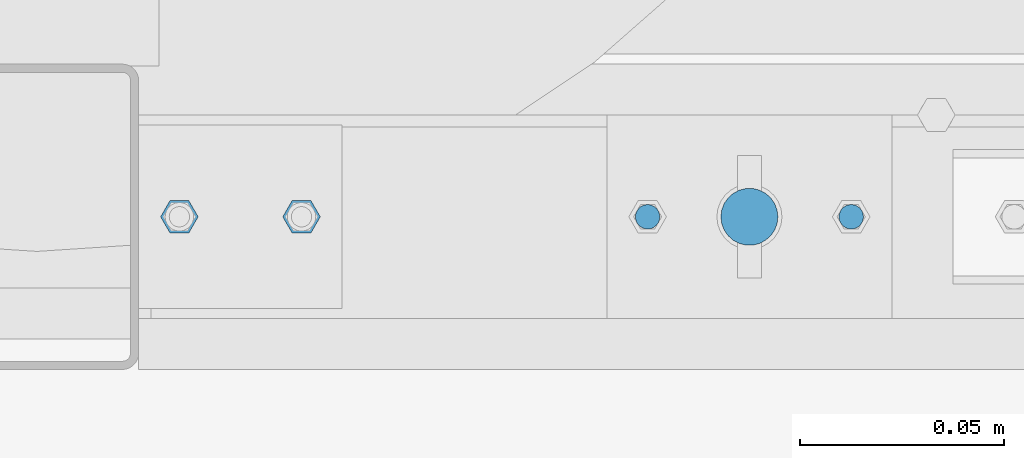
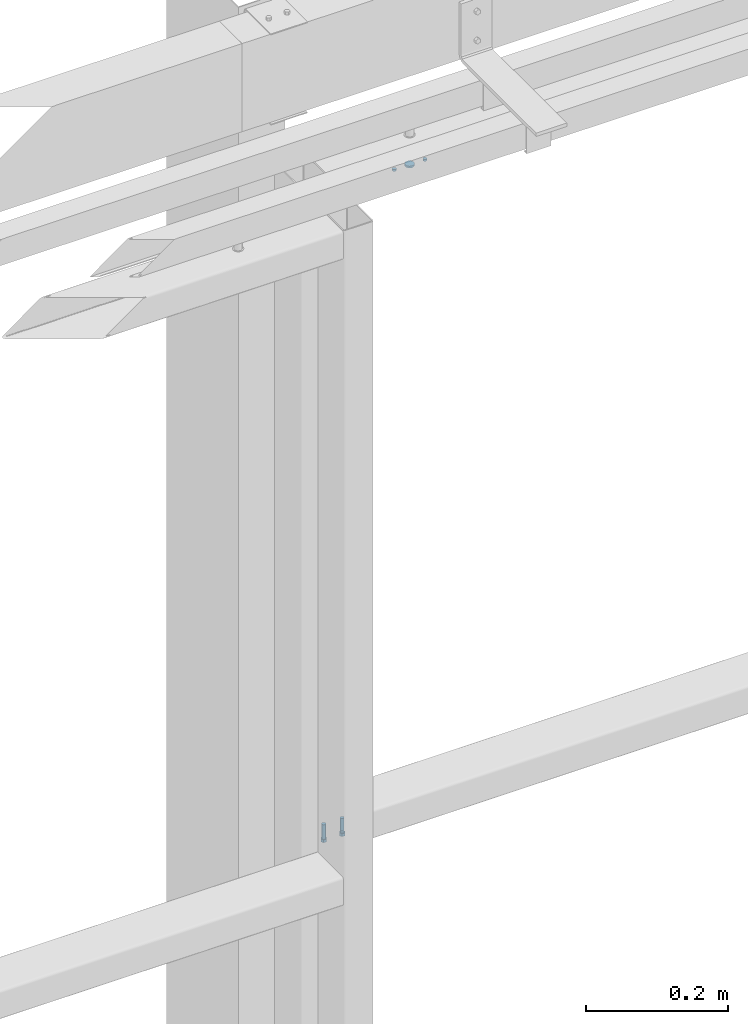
# One storey, part 51 of 91: 4 mechanical fasteners, 2 elements without a shape of their own.
"""IFC2X3 building model written with IfcOpenShell, lengths in millimetres."""

from ifc_helpers import new_model, si_unit, frame, origin_with_axes, origin_2d_with_axis, place, context, subcontext, project, spatial, polyline, circle, outline, extrude, source, transform, mapped, material, type_object, element, aggregate, save


model = new_model("IFC2X3")

# Units and contexts
model_context = context("Model", 3, precision=1e-05, world=origin_with_axes())
body_context = subcontext(model_context, "Body", "Model", "MODEL_VIEW")
ifc_project = project(units=[si_unit("LENGTHUNIT", "METRE", prefix="MILLI"), si_unit("AREAUNIT", "SQUARE_METRE"), si_unit("VOLUMEUNIT", "CUBIC_METRE"), si_unit("MASSUNIT", "GRAM", prefix="KILO"), si_unit("TIMEUNIT", "SECOND"), si_unit("PLANEANGLEUNIT", "RADIAN"), si_unit("SOLIDANGLEUNIT", "STERADIAN"), si_unit("THERMODYNAMICTEMPERATUREUNIT", "DEGREE_CELSIUS"), si_unit("LUMINOUSINTENSITYUNIT", "LUMEN")], contexts=[model_context])

# Site, building, storey
site_placement = place(None, origin_with_axes())
site = spatial("IfcSite", under=ifc_project, at=site_placement, Name="Undefined", CompositionType="ELEMENT")
building_placement = place(site_placement, origin_with_axes())
building = spatial("IfcBuilding", under=site, at=building_placement, Name="Undefined", CompositionType="ELEMENT")
storey_placement = place(building_placement, origin_with_axes())
storey = spatial("IfcBuildingStorey", under=building, at=storey_placement, Name="Undefined", CompositionType="ELEMENT", Elevation=0.0)

# Assembly, mechanical fasteners
assembly_1_placement = place(storey_placement, origin_with_axes())
assembly_1 = element("IfcElementAssembly", 1, at=assembly_1_placement, inside=storey, Name="ROD", AssemblyPlace="NOTDEFINED", PredefinedType="RIGID_FRAME")
ifc_material_1 = material(Name="8.8S")
discrete_accessory_type = type_object("IfcDiscreteAccessoryType", Name="Bolt assembly")
shared_shape_1 = source(origin_with_axes(), body_context, "Body", "SweptSolid", [
    extrude(circle(Radius=3.0, at=origin_2d_with_axis()), frame((0.0, -1.0, 0.0), z_axis=(0.0, 1.0, 0.0), x_axis=(1.0, 0.0, 0.0)), (0.0, 0.0, 1.0), 3.1),
])
mechanical_fastener_1_placement = place(assembly_1_placement, frame((-110520.84, 87712.15, 3324.0), z_axis=(0.0, 1.0, 0.0), x_axis=(-1.0, 0.0, 0.0)))
mechanical_fastener_1 = element("IfcMechanicalFastener", 2, at=mechanical_fastener_1_placement, type_object=discrete_accessory_type, material=ifc_material_1, Name="Bolt assembly", NominalDiameter=6.0, NominalLength=3.0, context=body_context, shape_type="MappedRepresentation", body=[
    mapped(shared_shape_1, transform((0.0, 0.0, 0.0))),
])
mechanical_fastener_2_placement = place(assembly_1_placement, frame((-110570.84, 87712.15, 3324.0), z_axis=(0.0, -1.0, 0.0), x_axis=(1.0, 0.0, 0.0)))
mechanical_fastener_2 = element("IfcMechanicalFastener", 3, at=mechanical_fastener_2_placement, type_object=discrete_accessory_type, material=ifc_material_1, Name="Bolt assembly", NominalDiameter=6.0, NominalLength=3.0, context=body_context, shape_type="MappedRepresentation", body=[
    mapped(shared_shape_1, transform((0.0, 0.0, 0.0))),
])
shared_shape_2 = source(origin_with_axes(), body_context, "Body", "SweptSolid", [
    extrude(circle(Radius=7.0, at=origin_2d_with_axis()), frame((0.0, -1.0, 0.0), z_axis=(0.0, 1.0, 0.0), x_axis=(1.0, 0.0, 0.0)), (0.0, 0.0, 1.0), 3.1),
])
mechanical_fastener_3_placement = place(assembly_1_placement, frame((-110545.84, 87712.15, 3324.0), z_axis=(0.0, -1.0, 0.0), x_axis=(1.0, 0.0, 0.0)))
mechanical_fastener_3 = element("IfcMechanicalFastener", 4, at=mechanical_fastener_3_placement, type_object=discrete_accessory_type, material=ifc_material_1, Name="Bolt assembly", NominalDiameter=12.0, NominalLength=3.0, context=body_context, shape_type="MappedRepresentation", body=[
    mapped(shared_shape_2, transform((0.0, 0.0, 0.0))),
])
aggregate(assembly_1, [mechanical_fastener_1, mechanical_fastener_2, mechanical_fastener_3])

# Assembly, mechanical fastener
assembly_2_placement = place(storey_placement, origin_with_axes())
assembly_2 = element("IfcElementAssembly", 5, at=assembly_2_placement, inside=storey, Name="SLIDING DOOR", AssemblyPlace="NOTDEFINED", PredefinedType="RIGID_FRAME")
ifc_material_2 = material(Name="TEK_11TPIM")
shared_shape_3 = source(origin_with_axes(), body_context, "Body", "SweptSolid", [
    extrude(circle(Radius=3.0, at=origin_2d_with_axis()), frame((0.0, 0.103333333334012, 0.0), z_axis=(0.0, 1.0, 0.0), x_axis=(1.0, 0.0, 0.0)), (0.0, 0.0, 1.0), 2.0),
    extrude(circle(Radius=3.0, at=origin_2d_with_axis()), frame((0.0, 2.4, 0.0), z_axis=(0.0, 1.0, 0.0), x_axis=(1.0, 0.0, 0.0)), (0.0, 0.0, 1.0), 1.7),
    extrude(outline(polyline([(4.61880215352, 0.0), (2.30940107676, 4.00000000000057), (-2.30940107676, 4.00000000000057), (-4.61880215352, 0.0), (-2.30940107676, -4.00000000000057), (2.30940107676, -4.00000000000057), (4.61880215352, 0.0)])), frame((0.0, -4.99666666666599, 0.0), z_axis=(0.0, 1.0, 0.0), x_axis=(1.0, 0.0, 0.0)), (0.0, 0.0, 1.0), 5.0),
    extrude(circle(Radius=3.0, at=origin_2d_with_axis()), frame((0.0, 0.0033333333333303, 0.0), z_axis=(0.0, 1.0, 0.0), x_axis=(1.0, 0.0, 0.0)), (0.0, 0.0, 1.0), 25.0),
    extrude(circle(Radius=3.0, at=origin_2d_with_axis()), frame((0.0, 4.10000002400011, 0.0), z_axis=(0.0, 1.0, 0.0), x_axis=(1.0, 0.0, 0.0)), (0.0, 0.0, 1.0), 0.1),
    extrude(outline(polyline([(3.46410161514, 0.0), (1.73205080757, 3.00000000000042), (-1.73205080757, 3.00000000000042), (-3.46410161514, 0.0), (-1.73205080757, -3.00000000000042), (1.73205080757, -3.00000000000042), (3.46410161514, 0.0)])), frame((0.0, 4.20000002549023, 0.0), z_axis=(0.0, 1.0, 0.0), x_axis=(1.0, 0.0, 0.0)), (0.0, 0.0, 1.0), 0.1),
])
mechanical_fastener_4_placement = place(assembly_2_placement, frame((-110685.84, 87712.15, 2211.66), z_axis=(0.0, -1.0, 0.0), x_axis=(1.0, 0.0, 0.0)))
mechanical_fastener_4 = element("IfcMechanicalFastener", 6, at=mechanical_fastener_4_placement, type_object=discrete_accessory_type, material=ifc_material_2, Name="Bolt assembly", NominalDiameter=6.0, NominalLength=25.0, context=body_context, shape_type="MappedRepresentation", body=[
    mapped(shared_shape_3, transform((0.0, 0.0, 0.0))),
    mapped(shared_shape_3, transform((30.0, 0.0, 0.0))),
])
aggregate(assembly_2, [mechanical_fastener_4])

save(model, "model.ifc")
